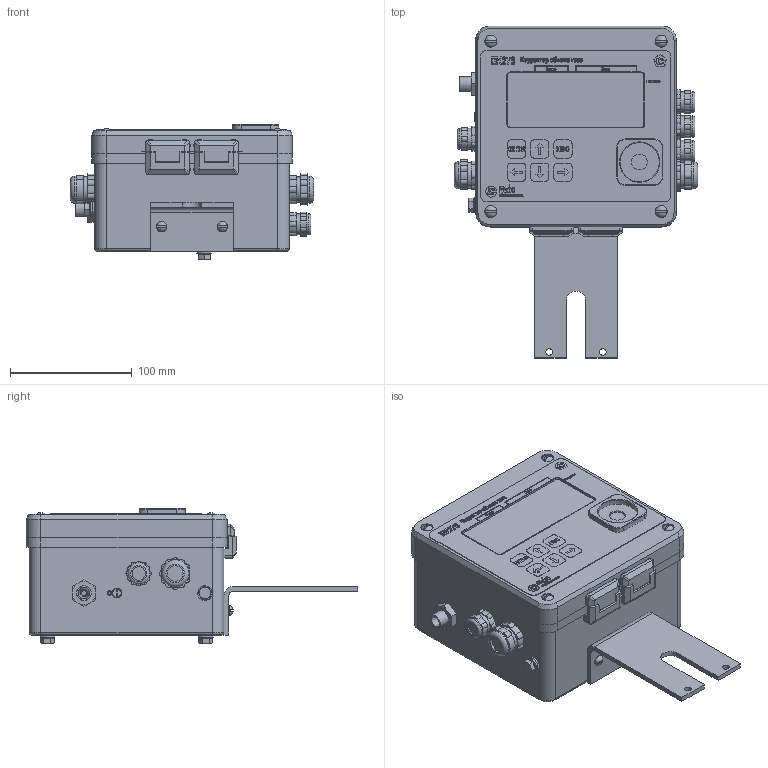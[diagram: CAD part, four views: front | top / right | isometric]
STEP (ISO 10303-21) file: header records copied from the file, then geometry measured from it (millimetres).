
FILE_DESCRIPTION(('STEP AP203'), '1');
FILE_NAME('EK270_skobaS1', '', ('UNSPECIFIED'), ('UNSPECIFIED'), 'C3D Converter', 'C3D Toolkit', '');
FILE_SCHEMA(('CONFIG_CONTROL_DESIGN'));
Length unit declared in the file: millimetre
Products named in the file (4): 10; 9; 12; 13
Assembly tree (4 placements, depth 2):
  10
    9
    12
    13  x2
Bounding box: 199.78 x 272.5 x 111 mm (x, y, z)
Volume: 2602109.3 mm3; surface area: 307542.1 mm2
Topology: 57 solids, 68 shells, 3827 faces, 10447 edges, 6886 vertices
Faces by surface type: plane 2912, cylinder 502, extrusion 320, cone 45, torus 41, sphere 7
Full cylindrical faces by diameter (mm): 2 x1, 3.5 x2, 4 x12, 4.249 x1, 4.3 x1, 4.8 x2, 5 x8, 5.5 x8, 6 x18, 6.4 x4, 6.5 x12, 7 x10, 8 x1, 8.5 x2, 9 x8, 10 x12, 10.5 x1, 11 x4, 12 x9, 12.3 x1, 12.87 x2, 13 x2, 13.2 x4, 13.86 x2, 15 x3, 16.38 x2, 17.6 x8, 21.06 x2, 22.23 x2, 25 x2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
Entity records: 150993 total; most frequent: CARTESIAN_POINT 40208, ORIENTED_EDGE 20389, DIRECTION 17820, EDGE_CURVE 10226, VECTOR 8652, LINE 8332, VERTEX_POINT 6861, AXIS2_PLACEMENT_3D 4584
